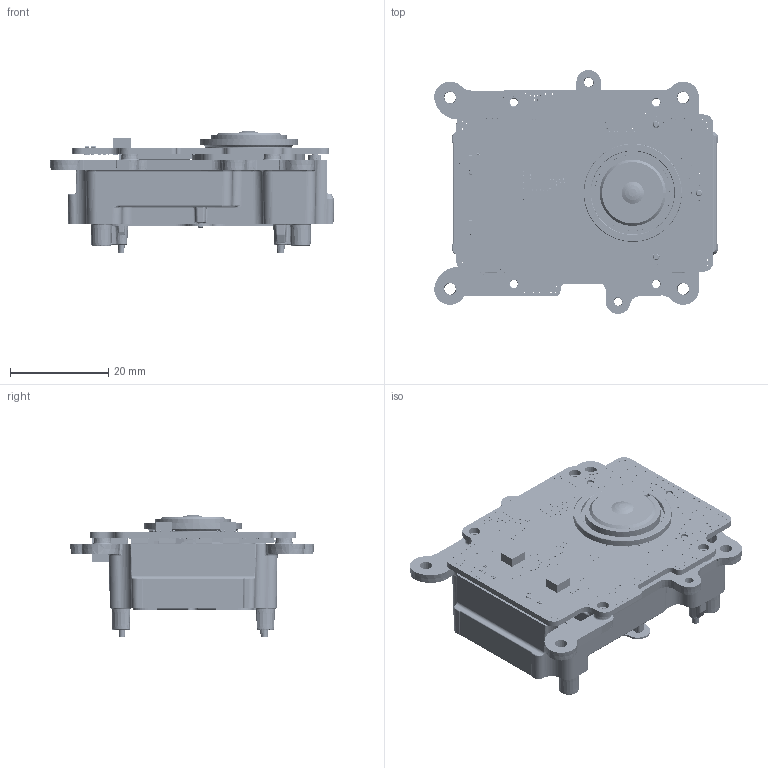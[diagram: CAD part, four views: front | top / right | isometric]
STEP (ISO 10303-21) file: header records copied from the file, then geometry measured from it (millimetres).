
FILE_DESCRIPTION (( 'STEP AP214' ), '1' );
FILE_NAME ('D3 Pro 20230810.STEP', '2025-06-06T07:00:24', ( '' ), ( '' ), 'SwSTEP 2.0', 'SolidWorks 2020', '' );
FILE_SCHEMA (( 'AUTOMOTIVE_DESIGN' ));
Length unit declared in the file: millimetre
Products named in the file (5): Tx PCBA; Rx PCBA_13.5mm-С; 踢扽そ敖欶-20230718; Tx&Rx Holder_Draft; D3 Pro 20230810
Assembly tree (4 placements, depth 2):
  D3 Pro 20230810
    踢扽そ敖欶-20230718
    Tx&Rx Holder_Draft
    Rx PCBA_13.5mm-С
    Tx PCBA
Bounding box: 57.84 x 49.7 x 24.93 mm (x, y, z)
Volume: 6563.2 mm3; surface area: 23557.4 mm2
Topology: 2 solids, 453 shells, 14937 faces, 35839 edges, 20024 vertices
Faces by surface type: cylinder 7002, plane 5044, sphere 1526, bspline 1140, cone 156, torus 69
Entity records: 579995 total; most frequent: CARTESIAN_POINT 267222, ORIENTED_EDGE 66980, EDGE_CURVE 33923, B_SPLINE_CURVE_WITH_KNOTS 32474, DIRECTION 28800, VERTEX_POINT 20024, EDGE_LOOP 17179, FACE_OUTER_BOUND 14937
